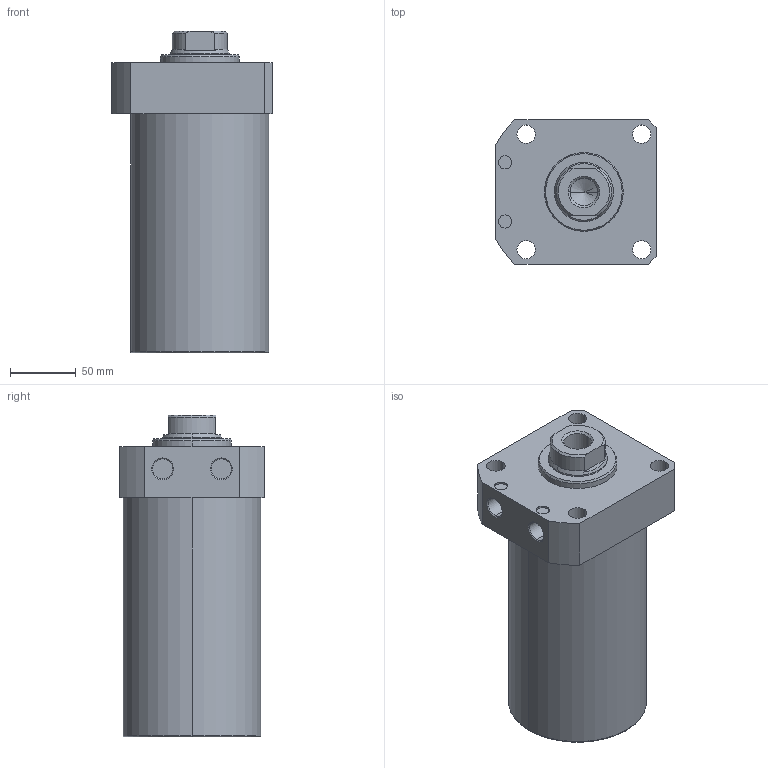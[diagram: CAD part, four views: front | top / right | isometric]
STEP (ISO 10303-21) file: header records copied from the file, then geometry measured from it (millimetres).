
FILE_DESCRIPTION (( 'STEP AP203' ), '1' );
FILE_NAME ('CLLR-105CA-135.STEP', '2019-12-18T07:21:18', ( '' ), ( '' ), 'SwSTEP 2.0', 'SolidWorks 2015', '' );
FILE_SCHEMA (( 'CONFIG_CONTROL_DESIGN' ));
Length unit declared in the file: millimetre
Products named in the file (1): CLLR-105CA-135
Bounding box: 122 x 110 x 245 mm (x, y, z)
Volume: 2073099.1 mm3; surface area: 118621.1 mm2
Topology: 1 solids, 1 shells, 65 faces, 153 edges, 96 vertices
Faces by surface type: cylinder 29, plane 19, cone 15, torus 2
Entity records: 1971 total; most frequent: DIRECTION 352, CARTESIAN_POINT 337, ORIENTED_EDGE 302, EDGE_CURVE 151, AXIS2_PLACEMENT_3D 143, VERTEX_POINT 96, EDGE_LOOP 81, CIRCLE 77
